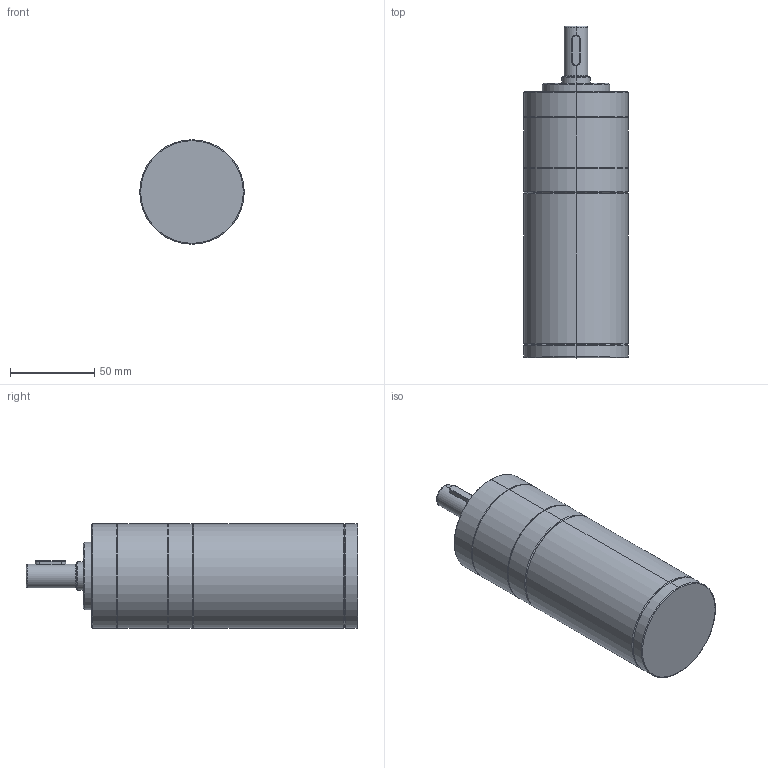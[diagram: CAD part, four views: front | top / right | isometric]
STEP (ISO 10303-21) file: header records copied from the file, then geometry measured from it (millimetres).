
FILE_DESCRIPTION (( 'STEP AP203' ), '1' );
FILE_NAME ('62BLD90W熬厒掀珨撰淕儂.STEP', '2021-07-16T04:27:41', ( '' ), ( '' ), 'SwSTEP 2.0', 'SolidWorks 2021', '' );
FILE_SCHEMA (( 'CONFIG_CONTROL_DESIGN' ));
Length unit declared in the file: millimetre
Products named in the file (3): 62PN珨撰; 62BLD90W熬厒掀珨撰淕儂; 62酗
Assembly tree (2 placements, depth 2):
  62BLD90W熬厒掀珨撰淕儂
    62PN珨撰
    62酗
Bounding box: 62 x 197.1 x 62 mm (x, y, z)
Volume: 480526.2 mm3; surface area: 47850.5 mm2
Topology: 2 solids, 2 shells, 157 faces, 351 edges, 207 vertices
Faces by surface type: plane 51, cylinder 48, cone 42, bspline 12, torus 4
Entity records: 4922 total; most frequent: CARTESIAN_POINT 1158, DIRECTION 777, ORIENTED_EDGE 682, EDGE_CURVE 341, AXIS2_PLACEMENT_3D 302, VERTEX_POINT 207, EDGE_LOOP 176, VECTOR 173
